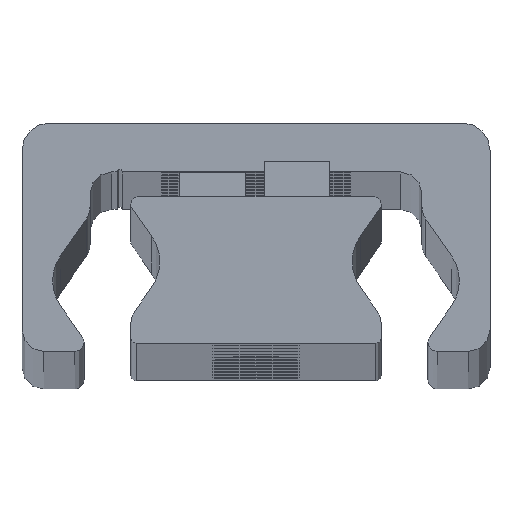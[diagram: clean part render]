
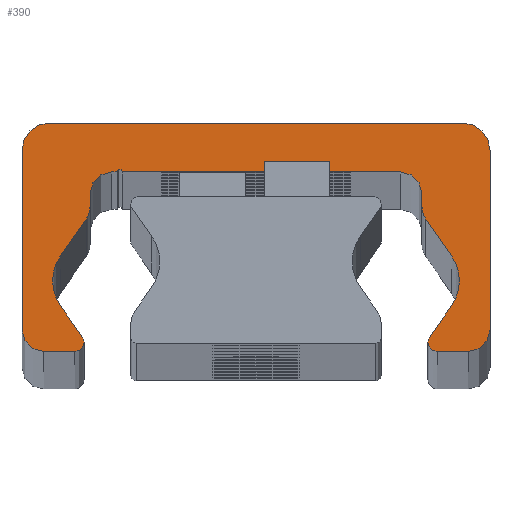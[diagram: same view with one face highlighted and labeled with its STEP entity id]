
A CAD part, top view. The second image highlights one B-rep face of the part: STEP entity #390.
In plain terms, the highlighted planar face has unit normal (0, 0, 1).
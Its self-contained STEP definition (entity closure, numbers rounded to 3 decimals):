
#390=ADVANCED_FACE('',(#1148),#1149,.T.);
#1148=FACE_OUTER_BOUND('',#1907,.T.);
#1149=PLANE('',#1908);
#1907=EDGE_LOOP('',(#4434,#4435,#4436,#4437,#4438,#4439,#4440,#4441,#4442,#4443,#4444,#4445,#4446,#4447,#4448,#4449,#4450,#4451,#4452,#4453,#4454,#4455,#4456,#4457,#4458,#4459,#4460,#4461,#4462,#4463));
#1908=AXIS2_PLACEMENT_3D('',#4464,#4465,#4466);
#4434=ORIENTED_EDGE('',*,*,#4949,.F.);
#4435=ORIENTED_EDGE('',*,*,#5302,.F.);
#4436=ORIENTED_EDGE('',*,*,#4935,.F.);
#4437=ORIENTED_EDGE('',*,*,#5301,.F.);
#4438=ORIENTED_EDGE('',*,*,#5297,.F.);
#4439=ORIENTED_EDGE('',*,*,#5294,.F.);
#4440=ORIENTED_EDGE('',*,*,#5291,.F.);
#4441=ORIENTED_EDGE('',*,*,#5288,.F.);
#4442=ORIENTED_EDGE('',*,*,#5285,.F.);
#4443=ORIENTED_EDGE('',*,*,#5282,.F.);
#4444=ORIENTED_EDGE('',*,*,#5279,.F.);
#4445=ORIENTED_EDGE('',*,*,#5276,.F.);
#4446=ORIENTED_EDGE('',*,*,#5273,.F.);
#4447=ORIENTED_EDGE('',*,*,#5270,.F.);
#4448=ORIENTED_EDGE('',*,*,#4941,.F.);
#4449=ORIENTED_EDGE('',*,*,#5268,.F.);
#4450=ORIENTED_EDGE('',*,*,#4943,.F.);
#4451=ORIENTED_EDGE('',*,*,#5267,.F.);
#4452=ORIENTED_EDGE('',*,*,#5263,.F.);
#4453=ORIENTED_EDGE('',*,*,#5260,.F.);
#4454=ORIENTED_EDGE('',*,*,#5257,.F.);
#4455=ORIENTED_EDGE('',*,*,#5254,.F.);
#4456=ORIENTED_EDGE('',*,*,#5251,.F.);
#4457=ORIENTED_EDGE('',*,*,#5248,.F.);
#4458=ORIENTED_EDGE('',*,*,#5245,.F.);
#4459=ORIENTED_EDGE('',*,*,#5242,.F.);
#4460=ORIENTED_EDGE('',*,*,#5239,.F.);
#4461=ORIENTED_EDGE('',*,*,#5236,.F.);
#4462=ORIENTED_EDGE('',*,*,#5233,.F.);
#4463=ORIENTED_EDGE('',*,*,#5230,.F.);
#4464=CARTESIAN_POINT('',(-0.023,14.187,957.0));
#4465=DIRECTION('',(0.0,0.0,1.0));
#4466=DIRECTION('',(1.0,0.0,0.0));
#4935=EDGE_CURVE('',#5994,#5997,#5998,.T.);
#4941=EDGE_CURVE('',#6007,#6003,#6009,.T.);
#4943=EDGE_CURVE('',#6010,#6013,#6014,.T.);
#4949=EDGE_CURVE('',#6023,#6019,#6025,.T.);
#5230=EDGE_CURVE('',#6019,#6476,#6477,.T.);
#5233=EDGE_CURVE('',#6476,#6481,#6482,.T.);
#5236=EDGE_CURVE('',#6481,#6486,#6487,.T.);
#5239=EDGE_CURVE('',#6486,#6491,#6492,.T.);
#5242=EDGE_CURVE('',#6491,#6496,#6497,.T.);
#5245=EDGE_CURVE('',#6496,#6501,#6502,.T.);
#5248=EDGE_CURVE('',#6501,#6506,#6507,.T.);
#5251=EDGE_CURVE('',#6506,#6511,#6512,.T.);
#5254=EDGE_CURVE('',#6511,#6516,#6517,.T.);
#5257=EDGE_CURVE('',#6516,#6521,#6522,.T.);
#5260=EDGE_CURVE('',#6521,#6526,#6527,.T.);
#5263=EDGE_CURVE('',#6526,#6531,#6532,.T.);
#5267=EDGE_CURVE('',#6531,#6010,#6537,.T.);
#5268=EDGE_CURVE('',#6013,#6007,#6538,.T.);
#5270=EDGE_CURVE('',#6003,#6540,#6541,.T.);
#5273=EDGE_CURVE('',#6540,#6545,#6546,.T.);
#5276=EDGE_CURVE('',#6545,#6550,#6551,.T.);
#5279=EDGE_CURVE('',#6550,#6555,#6556,.T.);
#5282=EDGE_CURVE('',#6555,#6560,#6561,.T.);
#5285=EDGE_CURVE('',#6560,#6565,#6566,.T.);
#5288=EDGE_CURVE('',#6565,#6570,#6571,.T.);
#5291=EDGE_CURVE('',#6570,#6575,#6576,.T.);
#5294=EDGE_CURVE('',#6575,#6580,#6581,.T.);
#5297=EDGE_CURVE('',#6580,#6585,#6586,.T.);
#5301=EDGE_CURVE('',#6585,#5994,#6591,.T.);
#5302=EDGE_CURVE('',#5997,#6023,#6592,.T.);
#5994=VERTEX_POINT('',#7494);
#5997=VERTEX_POINT('',#7498);
#5998=CIRCLE('',#7499,0.85);
#6003=VERTEX_POINT('',#7505);
#6007=VERTEX_POINT('',#7510);
#6009=CIRCLE('',#7513,0.85);
#6010=VERTEX_POINT('',#7514);
#6013=VERTEX_POINT('',#7518);
#6014=CIRCLE('',#7519,4.);
#6019=VERTEX_POINT('',#7525);
#6023=VERTEX_POINT('',#7530);
#6025=CIRCLE('',#7533,4.);
#6476=VERTEX_POINT('',#8110);
#6477=CIRCLE('',#8111,4.);
#6481=VERTEX_POINT('',#8116);
#6482=LINE('',#8117,#8118);
#6486=VERTEX_POINT('',#8124);
#6487=CIRCLE('',#8125,2.);
#6491=VERTEX_POINT('',#8130);
#6492=LINE('',#8131,#8132);
#6496=VERTEX_POINT('',#8138);
#6497=CIRCLE('',#8139,2.0);
#6501=VERTEX_POINT('',#8144);
#6502=LINE('',#8145,#8146);
#6506=VERTEX_POINT('',#8152);
#6507=CIRCLE('',#8153,0.25);
#6511=VERTEX_POINT('',#8158);
#6512=LINE('',#8159,#8160);
#6516=VERTEX_POINT('',#8166);
#6517=CIRCLE('',#8167,2.0);
#6521=VERTEX_POINT('',#8172);
#6522=LINE('',#8173,#8174);
#6526=VERTEX_POINT('',#8180);
#6527=CIRCLE('',#8181,2.0);
#6531=VERTEX_POINT('',#8186);
#6532=LINE('',#8187,#8188);
#6537=CIRCLE('',#8195,4.);
#6538=LINE('',#8196,#8197);
#6540=VERTEX_POINT('',#8200);
#6541=CIRCLE('',#8201,0.85);
#6545=VERTEX_POINT('',#8206);
#6546=LINE('',#8207,#8208);
#6550=VERTEX_POINT('',#8214);
#6551=CIRCLE('',#8215,2.);
#6555=VERTEX_POINT('',#8220);
#6556=LINE('',#8221,#8222);
#6560=VERTEX_POINT('',#8228);
#6561=CIRCLE('',#8229,2.5);
#6565=VERTEX_POINT('',#8234);
#6566=LINE('',#8235,#8236);
#6570=VERTEX_POINT('',#8242);
#6571=CIRCLE('',#8243,2.5);
#6575=VERTEX_POINT('',#8248);
#6576=LINE('',#8249,#8250);
#6580=VERTEX_POINT('',#8256);
#6581=CIRCLE('',#8257,2.);
#6585=VERTEX_POINT('',#8262);
#6586=LINE('',#8263,#8264);
#6591=CIRCLE('',#8271,0.85);
#6592=LINE('',#8272,#8273);
#7494=CARTESIAN_POINT('',(15.8,1.859,957.0));
#7498=CARTESIAN_POINT('',(15.922,2.298,957.0));
#7499=AXIS2_PLACEMENT_3D('',#9159,#9160,#9161);
#7505=CARTESIAN_POINT('',(-15.8,1.859,957.0));
#7510=CARTESIAN_POINT('',(-15.922,2.298,957.0));
#7513=AXIS2_PLACEMENT_3D('',#9171,#9172,#9173);
#7514=CARTESIAN_POINT('',(-18.688,7.509,957.0));
#7518=CARTESIAN_POINT('',(-17.964,5.214,957.0));
#7519=AXIS2_PLACEMENT_3D('',#9175,#9176,#9177);
#7525=CARTESIAN_POINT('',(18.688,7.509,957.0));
#7530=CARTESIAN_POINT('',(17.964,5.214,957.0));
#7533=AXIS2_PLACEMENT_3D('',#9187,#9188,#9189);
#8110=CARTESIAN_POINT('',(17.964,9.803,957.0));
#8111=AXIS2_PLACEMENT_3D('',#9778,#9779,#9780);
#8116=CARTESIAN_POINT('',(15.612,13.163,957.0));
#8117=CARTESIAN_POINT('',(15.612,13.163,957.0));
#8118=VECTOR('',#9785,1.0);
#8124=CARTESIAN_POINT('',(15.25,14.31,957.0));
#8125=AXIS2_PLACEMENT_3D('',#9788,#9789,#9790);
#8130=CARTESIAN_POINT('',(15.25,15.509,957.0));
#8131=CARTESIAN_POINT('',(15.25,15.509,957.0));
#8132=VECTOR('',#9795,1.0);
#8138=CARTESIAN_POINT('',(13.25,17.509,957.0));
#8139=AXIS2_PLACEMENT_3D('',#9798,#9799,#9800);
#8144=CARTESIAN_POINT('',(-12.25,17.509,957.0));
#8145=CARTESIAN_POINT('',(-12.25,17.509,957.0));
#8146=VECTOR('',#9805,1.0);
#8152=CARTESIAN_POINT('',(-12.75,17.509,957.0));
#8153=AXIS2_PLACEMENT_3D('',#9808,#9809,#9810);
#8158=CARTESIAN_POINT('',(-13.25,17.509,957.0));
#8159=CARTESIAN_POINT('',(-13.25,17.509,957.0));
#8160=VECTOR('',#9815,1.0);
#8166=CARTESIAN_POINT('',(-15.25,15.509,957.0));
#8167=AXIS2_PLACEMENT_3D('',#9818,#9819,#9820);
#8172=CARTESIAN_POINT('',(-15.25,14.31,957.0));
#8173=CARTESIAN_POINT('',(-15.25,14.31,957.0));
#8174=VECTOR('',#9825,1.0);
#8180=CARTESIAN_POINT('',(-15.612,13.163,957.0));
#8181=AXIS2_PLACEMENT_3D('',#9828,#9829,#9830);
#8186=CARTESIAN_POINT('',(-17.964,9.803,957.0));
#8187=CARTESIAN_POINT('',(-17.964,9.803,957.0));
#8188=VECTOR('',#9835,1.);
#8195=AXIS2_PLACEMENT_3D('',#9841,#9842,#9843);
#8196=CARTESIAN_POINT('',(-15.922,2.298,957.0));
#8197=VECTOR('',#9844,1.0);
#8200=CARTESIAN_POINT('',(-16.65,1.009,957.0));
#8201=AXIS2_PLACEMENT_3D('',#9846,#9847,#9848);
#8206=CARTESIAN_POINT('',(-19.5,1.009,957.0));
#8207=CARTESIAN_POINT('',(-19.5,1.009,957.0));
#8208=VECTOR('',#9853,1.0);
#8214=CARTESIAN_POINT('',(-21.5,3.009,957.0));
#8215=AXIS2_PLACEMENT_3D('',#9856,#9857,#9858);
#8220=CARTESIAN_POINT('',(-21.5,19.509,957.0));
#8221=CARTESIAN_POINT('',(-21.5,19.509,957.0));
#8222=VECTOR('',#9863,1.0);
#8228=CARTESIAN_POINT('',(-19.0,22.009,957.0));
#8229=AXIS2_PLACEMENT_3D('',#9866,#9867,#9868);
#8234=CARTESIAN_POINT('',(19.0,22.009,957.0));
#8235=CARTESIAN_POINT('',(19.0,22.009,957.0));
#8236=VECTOR('',#9873,1.0);
#8242=CARTESIAN_POINT('',(21.5,19.509,957.0));
#8243=AXIS2_PLACEMENT_3D('',#9876,#9877,#9878);
#8248=CARTESIAN_POINT('',(21.5,3.009,957.0));
#8249=CARTESIAN_POINT('',(21.5,3.009,957.0));
#8250=VECTOR('',#9883,1.0);
#8256=CARTESIAN_POINT('',(19.5,1.009,957.0));
#8257=AXIS2_PLACEMENT_3D('',#9886,#9887,#9888);
#8262=CARTESIAN_POINT('',(16.65,1.009,957.0));
#8263=CARTESIAN_POINT('',(16.65,1.009,957.0));
#8264=VECTOR('',#9893,1.0);
#8271=AXIS2_PLACEMENT_3D('',#9899,#9900,#9901);
#8272=CARTESIAN_POINT('',(17.964,5.214,957.0));
#8273=VECTOR('',#9902,1.0);
#9159=CARTESIAN_POINT('',(16.65,1.859,957.0));
#9160=DIRECTION('',(0.0,0.0,-1.0));
#9161=DIRECTION('',(1.0,0.0,0.0));
#9171=CARTESIAN_POINT('',(-16.65,1.859,957.0));
#9172=DIRECTION('',(0.0,0.0,-1.0));
#9173=DIRECTION('',(1.0,0.0,0.0));
#9175=CARTESIAN_POINT('',(-14.688,7.509,957.0));
#9176=DIRECTION('',(0.0,0.0,1.0));
#9177=DIRECTION('',(1.0,0.0,0.0));
#9187=CARTESIAN_POINT('',(14.688,7.509,957.0));
#9188=DIRECTION('',(0.0,0.0,1.0));
#9189=DIRECTION('',(1.0,0.0,0.0));
#9778=CARTESIAN_POINT('',(14.688,7.509,957.0));
#9779=DIRECTION('',(0.0,0.0,1.0));
#9780=DIRECTION('',(1.0,0.0,0.0));
#9785=DIRECTION('',(-0.574,0.819,0.0));
#9788=CARTESIAN_POINT('',(17.25,14.31,957.0));
#9789=DIRECTION('',(0.0,0.0,-1.0));
#9790=DIRECTION('',(1.0,0.0,0.0));
#9795=DIRECTION('',(0.0,1.0,0.0));
#9798=CARTESIAN_POINT('',(13.25,15.509,957.0));
#9799=DIRECTION('',(0.0,0.0,1.0));
#9800=DIRECTION('',(1.0,0.0,0.0));
#9805=DIRECTION('',(-1.0,-0.0,-0.0));
#9808=CARTESIAN_POINT('',(-12.5,17.509,957.0));
#9809=DIRECTION('',(0.0,0.0,1.0));
#9810=DIRECTION('',(1.0,0.0,0.0));
#9815=DIRECTION('',(-1.0,-0.0,-0.0));
#9818=CARTESIAN_POINT('',(-13.25,15.509,957.0));
#9819=DIRECTION('',(0.0,0.0,1.0));
#9820=DIRECTION('',(1.0,0.0,0.0));
#9825=DIRECTION('',(-0.0,-1.0,-0.0));
#9828=CARTESIAN_POINT('',(-17.25,14.31,957.0));
#9829=DIRECTION('',(0.0,0.0,-1.0));
#9830=DIRECTION('',(1.0,0.0,0.0));
#9835=DIRECTION('',(-0.574,-0.819,-0.0));
#9841=CARTESIAN_POINT('',(-14.688,7.509,957.0));
#9842=DIRECTION('',(0.0,0.0,1.0));
#9843=DIRECTION('',(1.0,0.0,0.0));
#9844=DIRECTION('',(0.574,-0.819,0.0));
#9846=CARTESIAN_POINT('',(-16.65,1.859,957.0));
#9847=DIRECTION('',(0.0,0.0,-1.0));
#9848=DIRECTION('',(1.0,0.0,0.0));
#9853=DIRECTION('',(-1.0,-0.0,-0.0));
#9856=CARTESIAN_POINT('',(-19.5,3.009,957.0));
#9857=DIRECTION('',(0.0,0.0,-1.0));
#9858=DIRECTION('',(1.0,0.0,0.0));
#9863=DIRECTION('',(0.0,1.0,0.0));
#9866=CARTESIAN_POINT('',(-19.0,19.509,957.0));
#9867=DIRECTION('',(0.0,0.0,-1.0));
#9868=DIRECTION('',(1.0,0.0,0.0));
#9873=DIRECTION('',(1.0,0.0,0.0));
#9876=CARTESIAN_POINT('',(19.0,19.509,957.0));
#9877=DIRECTION('',(0.0,0.0,-1.0));
#9878=DIRECTION('',(1.0,0.0,0.0));
#9883=DIRECTION('',(-0.0,-1.0,-0.0));
#9886=CARTESIAN_POINT('',(19.5,3.009,957.0));
#9887=DIRECTION('',(0.0,0.0,-1.0));
#9888=DIRECTION('',(1.0,0.0,0.0));
#9893=DIRECTION('',(-1.0,-0.0,-0.0));
#9899=CARTESIAN_POINT('',(16.65,1.859,957.0));
#9900=DIRECTION('',(0.0,0.0,-1.0));
#9901=DIRECTION('',(1.0,0.0,0.0));
#9902=DIRECTION('',(0.574,0.819,0.0));
